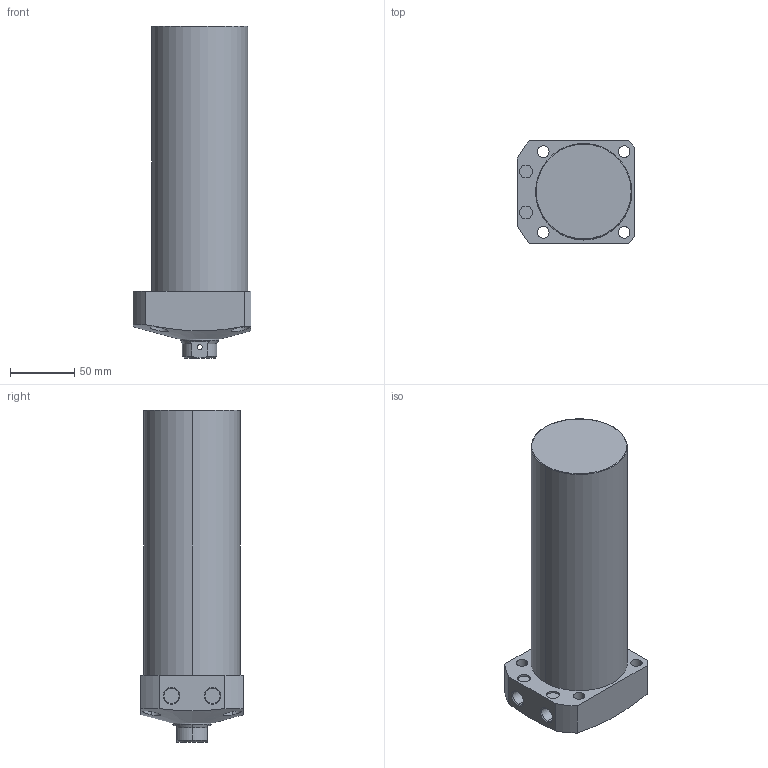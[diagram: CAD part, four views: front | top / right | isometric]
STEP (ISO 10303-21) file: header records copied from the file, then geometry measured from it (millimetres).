
FILE_DESCRIPTION (( 'STEP AP203' ), '1' );
FILE_NAME ('CLL-075CB-170.STEP', '2019-12-24T00:28:26', ( '' ), ( '' ), 'SwSTEP 2.0', 'SolidWorks 2015', '' );
FILE_SCHEMA (( 'CONFIG_CONTROL_DESIGN' ));
Length unit declared in the file: millimetre
Products named in the file (1): CLL-075CB-170
Bounding box: 92 x 80 x 259 mm (x, y, z)
Volume: 1133428.5 mm3; surface area: 81186.4 mm2
Topology: 1 solids, 1 shells, 78 faces, 183 edges, 116 vertices
Faces by surface type: cylinder 39, plane 22, cone 15, torus 2
Entity records: 2862 total; most frequent: CARTESIAN_POINT 955, DIRECTION 396, ORIENTED_EDGE 362, EDGE_CURVE 181, AXIS2_PLACEMENT_3D 164, VERTEX_POINT 116, EDGE_LOOP 101, CIRCLE 85
